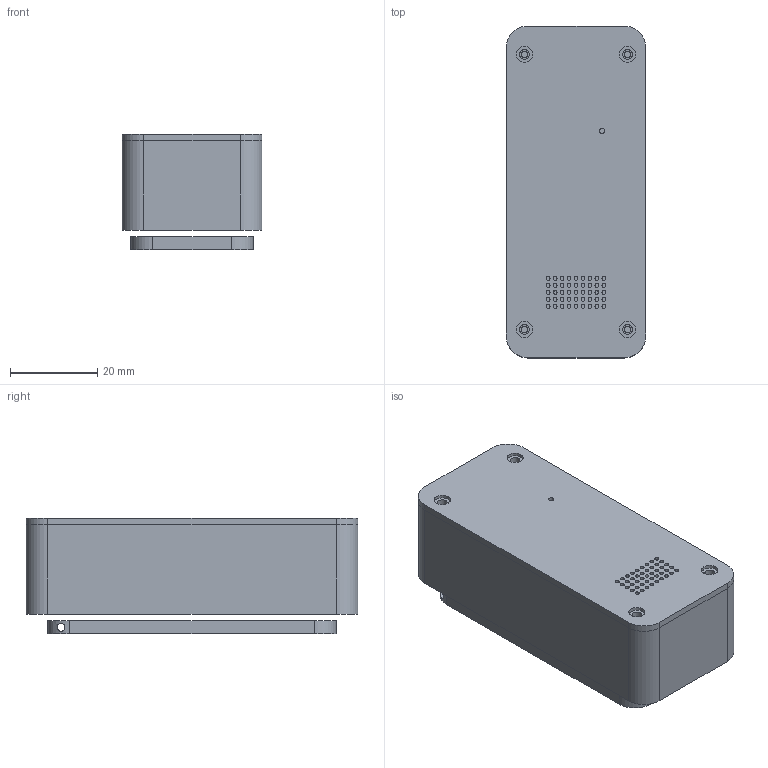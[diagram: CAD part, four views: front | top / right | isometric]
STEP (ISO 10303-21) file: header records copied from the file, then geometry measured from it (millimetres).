
FILE_DESCRIPTION(('Open CASCADE Model'),'2;1');
FILE_NAME('Open CASCADE Shape Model','2026-09-08T00:50:02',('Author'),( 'Open CASCADE'),'Open CASCADE STEP processor 7.9','Open CASCADE 7.9' ,'Unknown');
FILE_SCHEMA(('AUTOMOTIVE_DESIGN { 1 0 10303 214 1 1 1 1 }'));
Length unit declared in the file: millimetre
Products named in the file (1): COMPOUND
Bounding box: 32 x 76 x 26.5 mm (x, y, z)
Volume: 20846.7 mm3; surface area: 28916.9 mm2
Topology: 4 solids, 4 shells, 228 faces, 576 edges, 384 vertices
Faces by surface type: plane 120, cylinder 108
Full cylindrical faces by diameter (mm): 0.9 x45, 1.2 x1, 1.5 x4, 1.8 x1, 2.2 x4, 3.7 x4, 4.3 x8, 4.4 x8, 4.8 x1
Entity records: 14912 total; most frequent: CARTESIAN_POINT 3107, DIRECTION 2176, ORIENTED_EDGE 1152, PCURVE 1152, DEFINITIONAL_REPRESENTATION 1152, LINE 1100, VECTOR 1100, EDGE_CURVE 576
